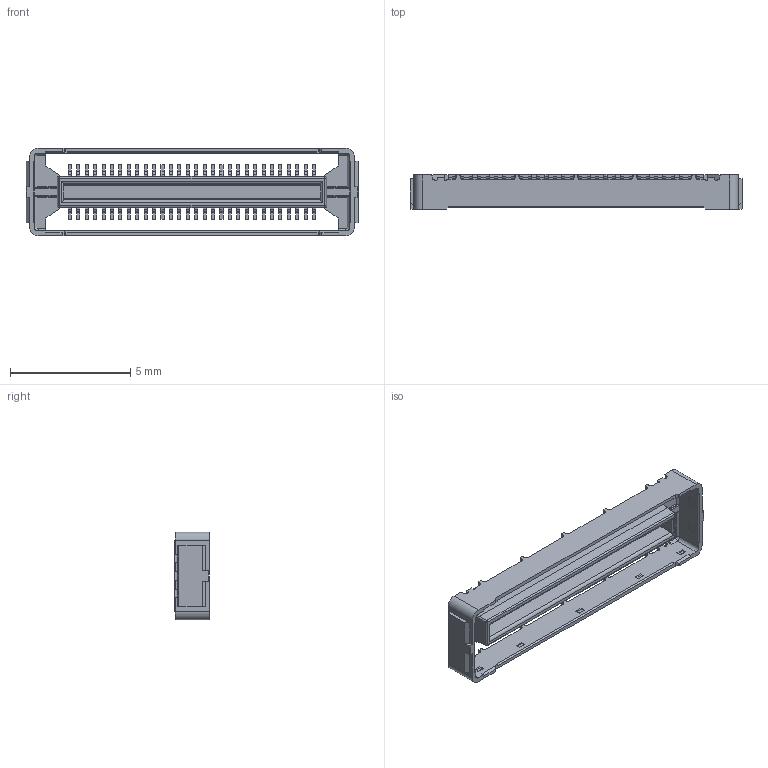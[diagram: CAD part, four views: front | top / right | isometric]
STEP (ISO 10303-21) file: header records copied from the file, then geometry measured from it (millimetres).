
FILE_DESCRIPTION (( 'STEP AP214' ), '1' );
FILE_NAME ('21003-060E NOVASTACK 35-HDH PLUG ASSEMBLY STEP R4.STEP', '2022-07-07T10:19:49', ( '' ), ( '' ), 'SwSTEP 2.0', 'SolidWorks 2020', '' );
FILE_SCHEMA (( 'AUTOMOTIVE_DESIGN' ));
Length unit declared in the file: millimetre
Products named in the file (1): 21003-060E NOVASTACK 35-HDH PLUG ASSEMBLY STEP R4
Bounding box: 13.8 x 1.45 x 3.64 mm (x, y, z)
Volume: 20.1 mm3; surface area: 192.7 mm2
Topology: 1 solids, 1 shells, 1397 faces, 3984 edges, 2596 vertices
Faces by surface type: plane 1039, cylinder 346, bspline 8, cone 4
Entity records: 45212 total; most frequent: CARTESIAN_POINT 8510, ORIENTED_EDGE 7960, DIRECTION 7316, EDGE_CURVE 3980, LINE 3264, VECTOR 3264, VERTEX_POINT 2596, AXIS2_PLACEMENT_3D 2026
